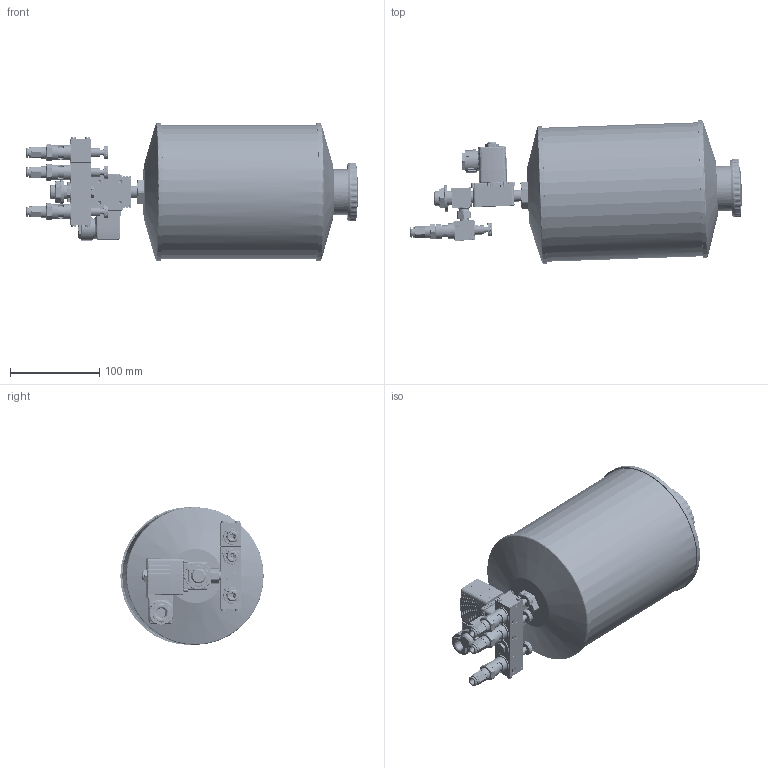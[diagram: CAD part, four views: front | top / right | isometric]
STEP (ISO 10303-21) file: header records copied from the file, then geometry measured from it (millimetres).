
FILE_DESCRIPTION (( 'STEP AP214' ), '1' );
FILE_NAME ('TRO_03_03_03_XXX.STEP', '2025-11-24T15:02:26', ( '' ), ( '' ), 'SwSTEP 2.0', 'SolidWorks 2022', '' );
FILE_SCHEMA (( 'AUTOMOTIVE_DESIGN' ));
Length unit declared in the file: millimetre
Products named in the file (20): DR6-C_HDX_25.07.16; TRO_2er; 9911 0701 0601_6_1_8_HD; TRO_2er_mittel_Mit_Verschr.SLDPRT; OR 7.2X1.9_1; TRO_Magnetventil_aktuell; TRO_Magnetventil_ohne; RIVOLUZIONE_0; TRO_2er_mittel; R200107-N1; DR6_NEU; TRO_03_03_03_XXX; TRO_1er_Mit_Verschr.SLDPRT; TRO_Endplatte; OR 7.66X1.78; TRO_Stutzen.SLDPRT; TRO_Magnetventil_Stecker; TRO_Behaelter_03
Assembly tree (18 placements, depth 4):
  OR 7.2X1.9_1
  TRO_2er_mittel
  R200107-N1
  DR6_NEU
  TRO_03_03_03_XXX
    TRO_2er_mittel_Mit_Verschr.SLDPRT
      TRO_Stutzen.SLDPRT
        TRO_2er_mittel
      TRO_2er
      9911 0701 0601_6_1_8_HD  x2
        RIVOLUZIONE_0
        OR 7.66X1.78
        DR6-C_HDX_25.07.16
    TRO_Endplatte  x2
    TRO_1er_Mit_Verschr.SLDPRT
      TRO_2er
      9911 0701 0601_6_1_8_HD
        RIVOLUZIONE_0
        OR 7.66X1.78
        DR6-C_HDX_25.07.16
    TRO_Magnetventil_aktuell
      TRO_Magnetventil_ohne
      TRO_Magnetventil_Stecker
    TRO_Behaelter_03
Bounding box: 371.57 x 160.4 x 154.4 mm (x, y, z)
Volume: 548328 mm3; surface area: 375426.3 mm2
Topology: 24 solids, 24 shells, 6548 faces, 17072 edges, 10642 vertices
Faces by surface type: plane 2578, bspline 2329, cylinder 999, cone 639, torus 3
Full cylindrical faces by diameter (mm): 1.5 x3, 2 x3, 3.5 x7, 3.8 x3, 4.2 x3, 4.5 x3, 5.5 x4, 5.9 x6, 6 x2, 6.2 x3, 6.25 x1, 6.3 x3, 6.75 x1, 7 x4, 7.2 x3, 7.4 x1, 8 x2, 8.3 x3, 8.4 x1, 8.5 x1, 8.6 x6, 8.8 x1, 9 x4, 9.2 x1, 9.5 x3, 9.728 x3, 9.8 x1, 9.9 x3, 10 x10, 10.1 x1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
Entity records: 313273 total; most frequent: CARTESIAN_POINT 170836, ORIENTED_EDGE 32198, DIRECTION 18634, EDGE_CURVE 16099, VERTEX_POINT 10212, B_SPLINE_CURVE_WITH_KNOTS 7533, AXIS2_PLACEMENT_3D 7005, EDGE_LOOP 6977
